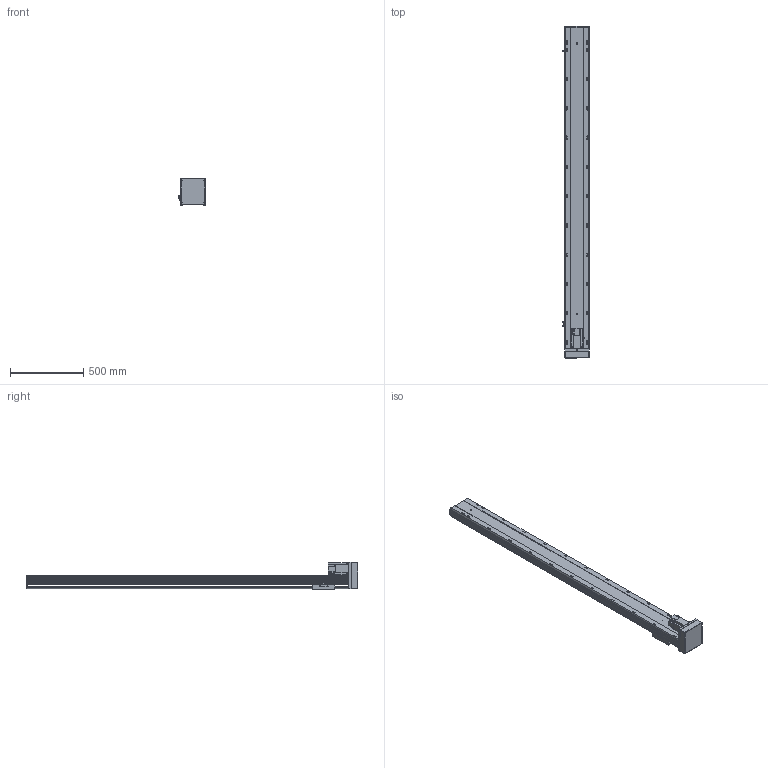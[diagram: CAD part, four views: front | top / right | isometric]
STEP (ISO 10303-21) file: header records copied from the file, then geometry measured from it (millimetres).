
FILE_DESCRIPTION (( 'STEP AP203' ), '1' );
FILE_NAME ('22.STEP', '2020-08-19T06:09:22', ( 'CXY' ), ( 'BOTI' ), 'SwSTEP 2.0', 'SolidWorks 2016', '' );
FILE_SCHEMA (( 'CONFIG_CONTROL_DESIGN' ));
Length unit declared in the file: millimetre
Products named in the file (15): BTH17M-BM-04; BTH17M-BM-01; BTH17M-BM-T75; BTH17M-BM-02; BTH17M-BM-菁釱; BTH17M-BM-HZ; 22
Assembly tree (8 placements, depth 2):
  BTH17M-BM-04
  BTH17M-BM-T75
  BTH17M-BM-04
  BTH17M-BM-02
  BTH17M-BM-04
Bounding box: 183.7 x 2269 x 185 mm (x, y, z)
Volume: 15580780.8 mm3; surface area: 2565252.4 mm2
Topology: 12 solids, 12 shells, 1123 faces, 3044 edges, 1985 vertices
Faces by surface type: plane 730, cylinder 331, cone 42, bspline 20
Full cylindrical faces by diameter (mm): 3.3 x4, 4.5 x15, 5 x10, 6 x10, 6.5 x4, 6.8 x24, 7.5 x5, 8 x6, 9 x24, 10 x4, 13.5 x24, 19 x1, 30 x1, 70 x1
Entity records: 28923 total; most frequent: CARTESIAN_POINT 6077, DIRECTION 4326, ORIENTED_EDGE 4300, EDGE_CURVE 2150, VERTEX_POINT 1484, LINE 1468, VECTOR 1468, AXIS2_PLACEMENT_3D 1429
